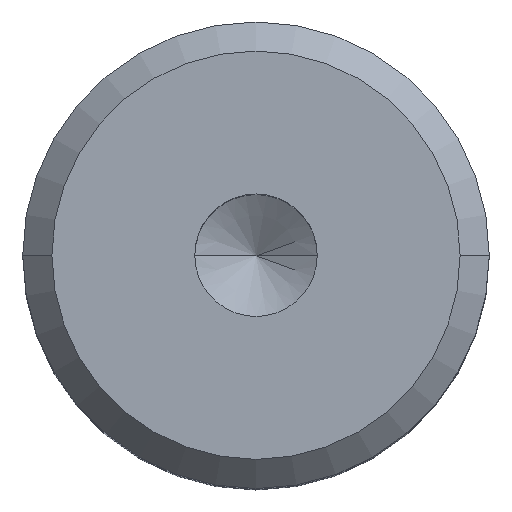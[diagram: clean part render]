
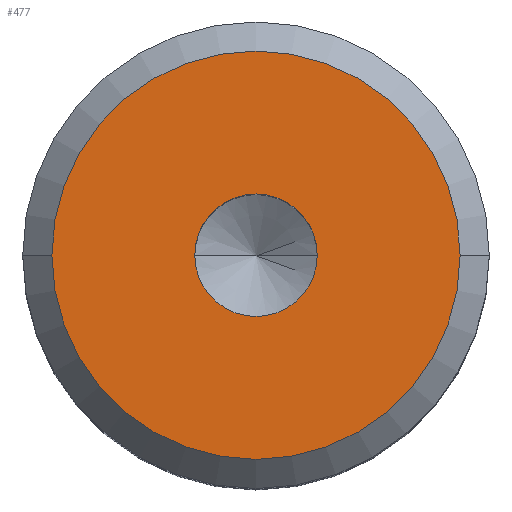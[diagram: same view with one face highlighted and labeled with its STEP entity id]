
A CAD part, top view. The second image highlights one B-rep face of the part: STEP entity #477.
In plain terms, the highlighted planar face has unit normal (0, 0, 1).
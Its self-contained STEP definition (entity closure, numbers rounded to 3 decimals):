
#2 = VERTEX_POINT ( 'NONE', #676 ) ;
#44 = EDGE_LOOP ( 'NONE', ( #63, #1010 ) ) ;
#61 = ORIENTED_EDGE ( 'NONE', *, *, #84, .F. ) ;
#62 = DIRECTION ( 'NONE',  ( 0., 0., -1. ) ) ;
#63 = ORIENTED_EDGE ( 'NONE', *, *, #186, .F. ) ;
#67 = DIRECTION ( 'NONE',  ( 0., 0., 1. ) ) ;
#68 = CARTESIAN_POINT ( 'NONE',  ( 0., 0., 15. ) ) ;
#78 = CIRCLE ( 'NONE', #968, 2.1 ) ;
#84 = EDGE_CURVE ( 'NONE', #689, #435, #354, .T. ) ;
#144 = EDGE_CURVE ( 'NONE', #435, #689, #602, .T. ) ;
#185 = AXIS2_PLACEMENT_3D ( 'NONE', #701, #196, #202 ) ;
#186 = EDGE_CURVE ( 'NONE', #369, #2, #78, .T. ) ;
#187 = AXIS2_PLACEMENT_3D ( 'NONE', #705, #67, #225 ) ;
#196 = DIRECTION ( 'NONE',  ( 0., 0., -1. ) ) ;
#201 = EDGE_LOOP ( 'NONE', ( #61, #449 ) ) ;
#202 = DIRECTION ( 'NONE',  ( -1., 0., 0. ) ) ;
#216 = DIRECTION ( 'NONE',  ( -1., 0., 0. ) ) ;
#225 = DIRECTION ( 'NONE',  ( 1., 0., 0. ) ) ;
#273 = CIRCLE ( 'NONE', #187, 2.1 ) ;
#278 = FACE_BOUND ( 'NONE', #44, .T. ) ;
#307 = FACE_OUTER_BOUND ( 'NONE', #201, .T. ) ;
#354 = CIRCLE ( 'NONE', #185, 7. ) ;
#369 = VERTEX_POINT ( 'NONE', #664 ) ;
#431 = AXIS2_PLACEMENT_3D ( 'NONE', #452, #708, #1006 ) ;
#435 = VERTEX_POINT ( 'NONE', #756 ) ;
#449 = ORIENTED_EDGE ( 'NONE', *, *, #144, .F. ) ;
#452 = CARTESIAN_POINT ( 'NONE',  ( -9.1, -14.549, 15. ) ) ;
#456 = PLANE ( 'NONE',  #431 ) ;
#477 = ADVANCED_FACE ( 'NONE', ( #278, #307 ), #456, .T. ) ;
#492 = CARTESIAN_POINT ( 'NONE',  ( 7., 0., 15. ) ) ;
#567 = AXIS2_PLACEMENT_3D ( 'NONE', #621, #62, #216 ) ;
#602 = CIRCLE ( 'NONE', #567, 7. ) ;
#621 = CARTESIAN_POINT ( 'NONE',  ( 0., 0., 15. ) ) ;
#664 = CARTESIAN_POINT ( 'NONE',  ( 2.1, 0., 15. ) ) ;
#676 = CARTESIAN_POINT ( 'NONE',  ( -2.1, 0., 15. ) ) ;
#689 = VERTEX_POINT ( 'NONE', #492 ) ;
#701 = CARTESIAN_POINT ( 'NONE',  ( 0., 0., 15. ) ) ;
#705 = CARTESIAN_POINT ( 'NONE',  ( 0., 0., 15. ) ) ;
#708 = DIRECTION ( 'NONE',  ( 0., 0., 1. ) ) ;
#756 = CARTESIAN_POINT ( 'NONE',  ( -7., 0., 15. ) ) ;
#865 = DIRECTION ( 'NONE',  ( 0., 0., 1. ) ) ;
#921 = DIRECTION ( 'NONE',  ( 1., 0., 0. ) ) ;
#946 = EDGE_CURVE ( 'NONE', #2, #369, #273, .T. ) ;
#968 = AXIS2_PLACEMENT_3D ( 'NONE', #68, #865, #921 ) ;
#1006 = DIRECTION ( 'NONE',  ( 1., 0., 0. ) ) ;
#1010 = ORIENTED_EDGE ( 'NONE', *, *, #946, .F. ) ;
